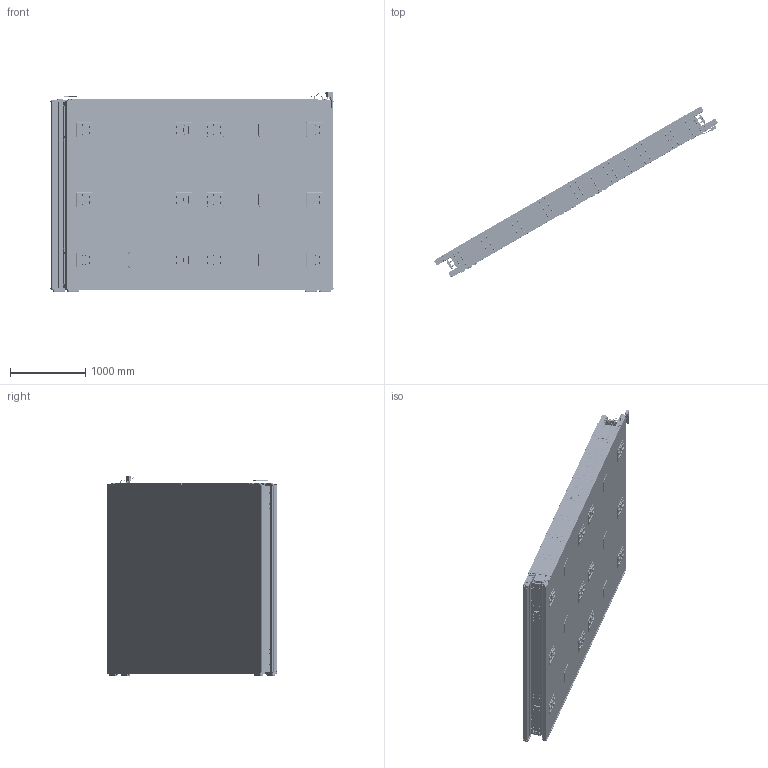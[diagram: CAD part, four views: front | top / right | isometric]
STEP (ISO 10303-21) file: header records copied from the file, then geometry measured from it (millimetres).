
FILE_DESCRIPTION(/* description */ (''),/* implementation_level */ '2;1');
FILE_NAME(/* name */ '040209_mb45_2_4_5_sx_phi_R_carters.stp',/* time_stamp */ '2022-07-08T11:52:58+02:00',/* author */ (''),/* organization */ (''),/* preprocessor_version */ 'ST-DEVELOPER v18.102',/* originating_system */ 'SIEMENS PLM Software NX 2000',/* authorisation */ '');
FILE_SCHEMA (('AUTOMOTIVE_DESIGN { 1 0 10303 214 3 1 1 1 }'));
Products named in the file (164): piastra_0011_spess; piastra_0011; rivetto_4; guide_schematik_for_verify2; guide_schematik_for_verify; spina_5x26; elicoil; rivetto_svas_m10; slow_control_model; power_supply_model; tappo1_4; connett_test_p; connett_fe; mb45_phi_lam_vars; mb3c_phi_lam_vars; mb3_phi_lam_vars; mb2c_th_lam_vars; mb2c_phi_lam_vars; mb2_th_lam_vars; mb2_phi_lam_vars; mb3c_th_lam_vars; mb45c_phi_lam_vars; mb3_th_lam_vars; mb48_phi_lam_vars; mb1_phi_lam_vars; mb1_th_lam_vars; mb49_phi_lam_vars; mb1c_phi_lam_vars; mb1c_th_lam_vars; cover_new2; axis; tappo1_8; i_endplug; wire_endplug; colon_front_000308; block_sh12_000301; mb1_q1_strip; corpo_elbow; w4s_hc_skin_178; w4s_hc_core_178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
Assembly tree (410 placements, depth 7):
  040209_mb45_2_4_5_sx_phi_R_carters
    mb45_2_4_5_sx_ass
      mb45_2_4_5_sx_ch
        mb45_phi_superlay  x2
          mb45_q1_ass_lamiere
            mb45_q1_b1
            mb45_q1_b1_corto  x3
              mb1_q1_strip
            mb45_q1_b1_up
            cms_mb_02_020  x4
          mb3_q1_ass_lateral
            as_angle  x2
              block_sh12_000301
              colon_front_000308
            cms_mb_02_014
          vite_m4
          wires_2d_ass_mb_z_4_5_q1
            wires_2d_mb_z_4_5_q1
            ibeams_2d_mb_z_4_5_q1
            mb45_q1_as_w_endplug
              wire_endplug  x2
            mb45_q1_as_i_endplug
              i_endplug  x2
          mb45_q1_cover_hv_ass
            cms_mb_02_029
            cms_mb_02_024
              tappo1_8  x2
              axis  x59
            as_hv_conn_cover  x2
              cover_new2
          vars
            mb1c_th_vars
              mb1c_th_lam_vars
            mb1c_phi_vars
              mb1c_phi_lam_vars
            mb49_phi_vars
              mb49_phi_lam_vars
            mb1_th_vars
              mb1_th_lam_vars
            mb1_phi_vars
              mb1_phi_lam_vars
            mb48_phi_vars
              mb48_phi_lam_vars
            mb3_th_vars
              mb3_th_lam_vars
            mb45c_phi_vars
              mb45c_phi_lam_vars
            mb3c_th_vars
              mb3c_th_lam_vars
            mb2_phi_vars
              mb2_phi_lam_vars
            mb2_th_vars
              mb2_th_lam_vars
            mb2c_phi_vars
              mb2c_phi_lam_vars
            mb2c_th_vars
              mb2c_th_lam_vars
            mb3_phi_vars
              mb3_phi_lam_vars
            mb3c_phi_vars
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Bounding box: 3750.24 x 2249.08 x 2646 mm (x, y, z)
Volume: 1904688440.9 mm3; surface area: 436031162.6 mm2
Topology: 386 solids, 386 shells, 18379 faces, 52128 edges, 34454 vertices
Faces by surface type: plane 9465, cylinder 7183, cone 1406, bspline 148, torus 129, sphere 48
Full cylindrical faces by diameter (mm): 1 x370, 1.675 x12, 2 x16, 2.594 x72, 3 x96, 3.2 x16, 3.25 x2, 3.3 x48, 3.432 x933, 3.5 x66, 3.778 x7, 4 x34, 4.351 x8, 4.5 x4, 4.8 x33, 5 x103, 5.188 x104, 5.5 x552, 6 x27, 6.4 x22, 6.5 x17, 7 x2, 7.188 x4, 7.5 x96, 8 x65, 8.6 x6, 8.782 x4, 8.8 x10, 8.933 x28, 8.985 x24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
Entity records: 387533 total; most frequent: CARTESIAN_POINT 97718, DIRECTION 57995, ORIENTED_EDGE 55284, EDGE_CURVE 27642, AXIS2_PLACEMENT_3D 20433, VERTEX_POINT 19929, LINE 17129, VECTOR 17129
